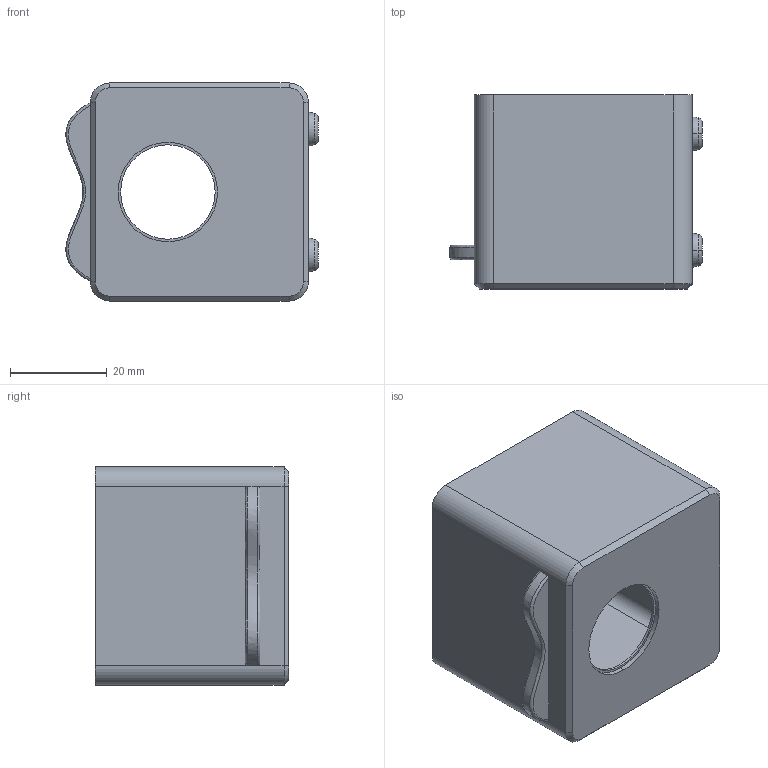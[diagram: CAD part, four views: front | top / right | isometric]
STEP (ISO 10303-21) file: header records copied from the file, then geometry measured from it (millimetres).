
FILE_DESCRIPTION((''),'2;1');
FILE_NAME('KEY_TOP_COVER','2025-06-04T16:08:06',('jianga3x'),('INTEL'),'CREO PARAMETRIC BY PTC INC, 2023294','CREO PARAMETRIC BY PTC INC, 2023294','');
FILE_SCHEMA(('CONFIG_CONTROL_DESIGN'));
Length unit declared in the file: millimetre
Products named in the file (1): KEY_TOP_COVER
Bounding box: 52.05 x 40 x 45 mm (x, y, z)
Volume: 13485.3 mm3; surface area: 17625.2 mm2
Topology: 1 solids, 1 shells, 168 faces, 422 edges, 272 vertices
Faces by surface type: plane 81, cylinder 60, cone 16, torus 8, bspline 2, extrusion 1
Entity records: 5837 total; most frequent: CARTESIAN_POINT 1635, DIRECTION 909, ORIENTED_EDGE 844, EDGE_CURVE 422, AXIS2_PLACEMENT_3D 329, VERTEX_POINT 272, VECTOR 251, LINE 250
